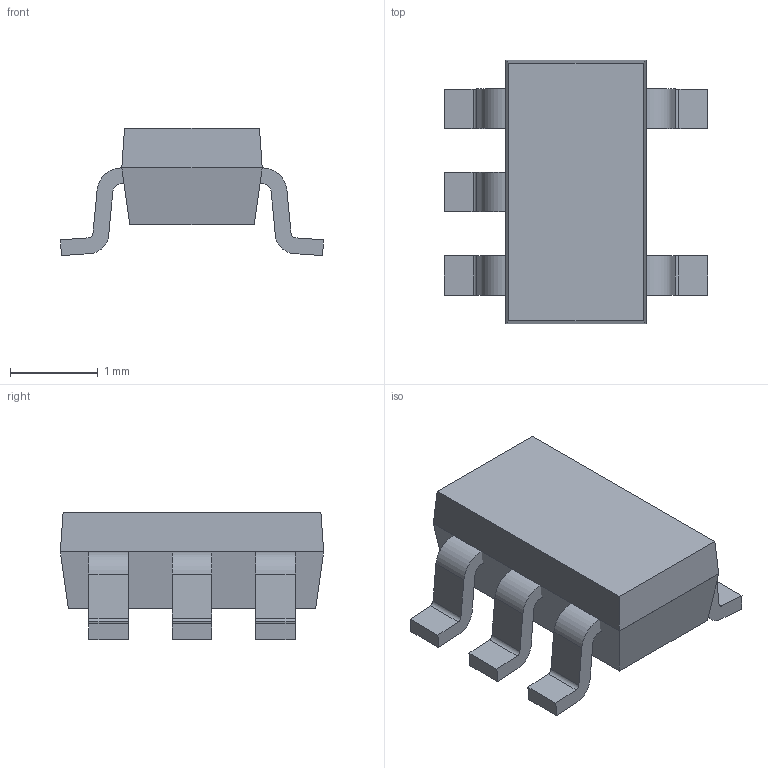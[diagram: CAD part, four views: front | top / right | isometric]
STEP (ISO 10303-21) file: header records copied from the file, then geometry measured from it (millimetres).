
FILE_DESCRIPTION(('FreeCAD Model'),'2;1');
FILE_NAME('Open CASCADE Shape Model','2025-03-10T20:17:03',( 'Krisjanis Rijnieks'),(''),'Open CASCADE STEP processor 7.7', 'FreeCAD','Unknown');
FILE_SCHEMA(('AUTOMOTIVE_DESIGN { 1 0 10303 214 1 1 1 1 }'));
Length unit declared in the file: millimetre
Products named in the file (6): SOT23-5; Inner; 1st Line; 2nd LIne; 3rd Line; Body
Assembly tree (5 placements, depth 3):
  SOT23-5
    Inner
      1st Line
      2nd LIne
      3rd Line
      Body
Bounding box: 3 x 3 x 1.45 mm (x, y, z)
Volume: 5.8 mm3; surface area: 32.2 mm2
Topology: 4 solids, 4 shells, 72 faces, 184 edges, 120 vertices
Faces by surface type: plane 52, cylinder 20
Entity records: 2301 total; most frequent: CARTESIAN_POINT 382, DIRECTION 380, ORIENTED_EDGE 368, EDGE_CURVE 184, LINE 144, VECTOR 144, VERTEX_POINT 120, AXIS2_PLACEMENT_3D 118
